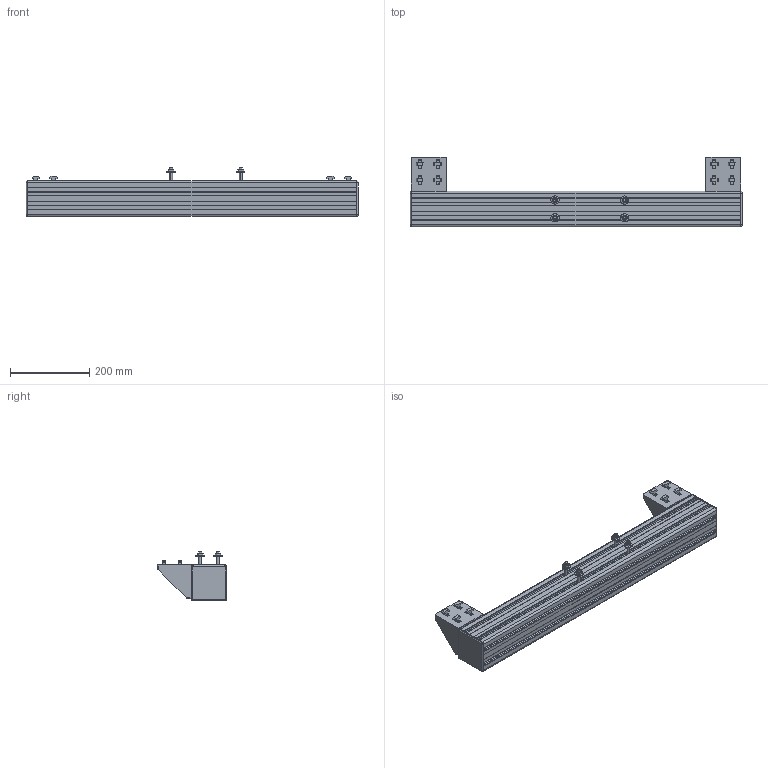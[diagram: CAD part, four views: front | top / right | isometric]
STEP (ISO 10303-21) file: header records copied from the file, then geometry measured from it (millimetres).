
FILE_DESCRIPTION (( 'STEP AP203' ), '1' );
FILE_NAME ('Asutec_75000079.STEP', '2021-11-16T08:31:38', ( '' ), ( '' ), 'SwSTEP 2.0', 'SolidWorks 2020', '' );
FILE_SCHEMA (( 'CONFIG_CONTROL_DESIGN' ));
Length unit declared in the file: millimetre
Products named in the file (1): Asutec_75000079
Bounding box: 840.5 x 176 x 124 mm (x, y, z)
Volume: 5560226.7 mm3; surface area: 864461 mm2
Topology: 9 solids, 9 shells, 1070 faces, 2896 edges, 1872 vertices
Faces by surface type: plane 782, cylinder 196, cone 76, sphere 8, bspline 8
Entity records: 35357 total; most frequent: CARTESIAN_POINT 8827, ORIENTED_EDGE 5792, DIRECTION 5126, EDGE_CURVE 2896, VECTOR 2016, LINE 2016, VERTEX_POINT 1872, AXIS2_PLACEMENT_3D 1555
